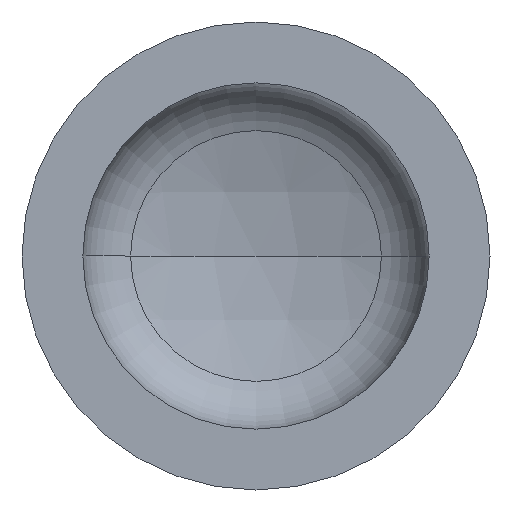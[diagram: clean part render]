
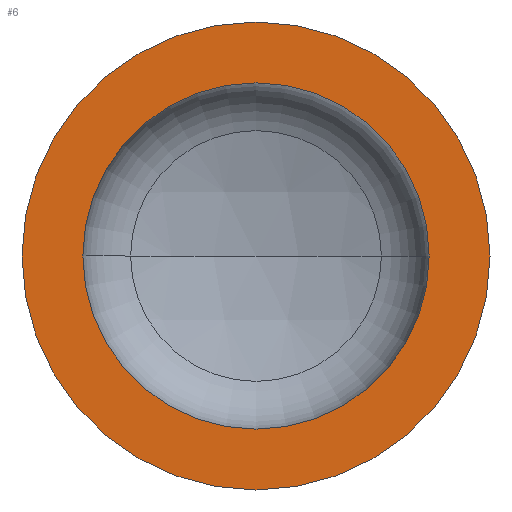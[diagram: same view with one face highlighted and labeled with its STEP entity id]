
A CAD part, front view. The second image highlights one B-rep face of the part: STEP entity #6.
In plain terms, the highlighted planar face has unit normal (0, -1, 0).
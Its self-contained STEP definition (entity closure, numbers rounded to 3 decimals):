
#5 = EDGE_LOOP ( 'NONE', ( #109, #50 ) ) ;
#6 = ADVANCED_FACE ( 'NONE', ( #169, #376 ), #349, .F. ) ;
#10 = EDGE_CURVE ( 'NONE', #120, #135, #168, .T. ) ;
#22 = EDGE_CURVE ( 'NONE', #135, #120, #39, .T. ) ;
#39 = CIRCLE ( 'NONE', #365, 300. ) ;
#40 = VERTEX_POINT ( 'NONE', #226 ) ;
#46 = EDGE_CURVE ( 'NONE', #97, #40, #367, .T. ) ;
#50 = ORIENTED_EDGE ( 'NONE', *, *, #10, .T. ) ;
#59 = EDGE_LOOP ( 'NONE', ( #102, #146 ) ) ;
#62 = CIRCLE ( 'NONE', #344, 222. ) ;
#75 = DIRECTION ( 'NONE',  ( 1., 0., 0. ) ) ;
#97 = VERTEX_POINT ( 'NONE', #303 ) ;
#102 = ORIENTED_EDGE ( 'NONE', *, *, #46, .F. ) ;
#109 = ORIENTED_EDGE ( 'NONE', *, *, #22, .T. ) ;
#120 = VERTEX_POINT ( 'NONE', #196 ) ;
#135 = VERTEX_POINT ( 'NONE', #200 ) ;
#146 = ORIENTED_EDGE ( 'NONE', *, *, #298, .F. ) ;
#168 = CIRCLE ( 'NONE', #314, 300. ) ;
#169 = FACE_BOUND ( 'NONE', #59, .T. ) ;
#196 = CARTESIAN_POINT ( 'NONE',  ( -300., 0., 0. ) ) ;
#200 = CARTESIAN_POINT ( 'NONE',  ( 300., 0., 0. ) ) ;
#204 = DIRECTION ( 'NONE',  ( 1., 0., 0. ) ) ;
#205 = DIRECTION ( 'NONE',  ( 0., -1., 0. ) ) ;
#207 = DIRECTION ( 'NONE',  ( 0., -1., 0. ) ) ;
#223 = CARTESIAN_POINT ( 'NONE',  ( 0., 0., 0. ) ) ;
#226 = CARTESIAN_POINT ( 'NONE',  ( -222., 0., 0. ) ) ;
#265 = DIRECTION ( 'NONE',  ( -1., 0., 0. ) ) ;
#266 = CARTESIAN_POINT ( 'NONE',  ( -300., 0., 0. ) ) ;
#267 = DIRECTION ( 'NONE',  ( 0., 1., 0. ) ) ;
#269 = CARTESIAN_POINT ( 'NONE',  ( 0., 0., 0. ) ) ;
#298 = EDGE_CURVE ( 'NONE', #40, #97, #62, .T. ) ;
#303 = CARTESIAN_POINT ( 'NONE',  ( 222., 0., 0. ) ) ;
#314 = AXIS2_PLACEMENT_3D ( 'NONE', #223, #205, #204 ) ;
#317 = DIRECTION ( 'NONE',  ( 1., 0., 0. ) ) ;
#319 = DIRECTION ( 'NONE',  ( 0., -1., 0. ) ) ;
#322 = CARTESIAN_POINT ( 'NONE',  ( 0., 0., 0. ) ) ;
#331 = DIRECTION ( 'NONE',  ( 1., 0., 0. ) ) ;
#333 = DIRECTION ( 'NONE',  ( 0., -1., 0. ) ) ;
#334 = CARTESIAN_POINT ( 'NONE',  ( 0., 0., 0. ) ) ;
#336 = AXIS2_PLACEMENT_3D ( 'NONE', #266, #267, #265 ) ;
#344 = AXIS2_PLACEMENT_3D ( 'NONE', #269, #207, #75 ) ;
#349 = PLANE ( 'NONE',  #336 ) ;
#365 = AXIS2_PLACEMENT_3D ( 'NONE', #322, #319, #317 ) ;
#367 = CIRCLE ( 'NONE', #398, 222. ) ;
#376 = FACE_OUTER_BOUND ( 'NONE', #5, .T. ) ;
#398 = AXIS2_PLACEMENT_3D ( 'NONE', #334, #333, #331 ) ;
